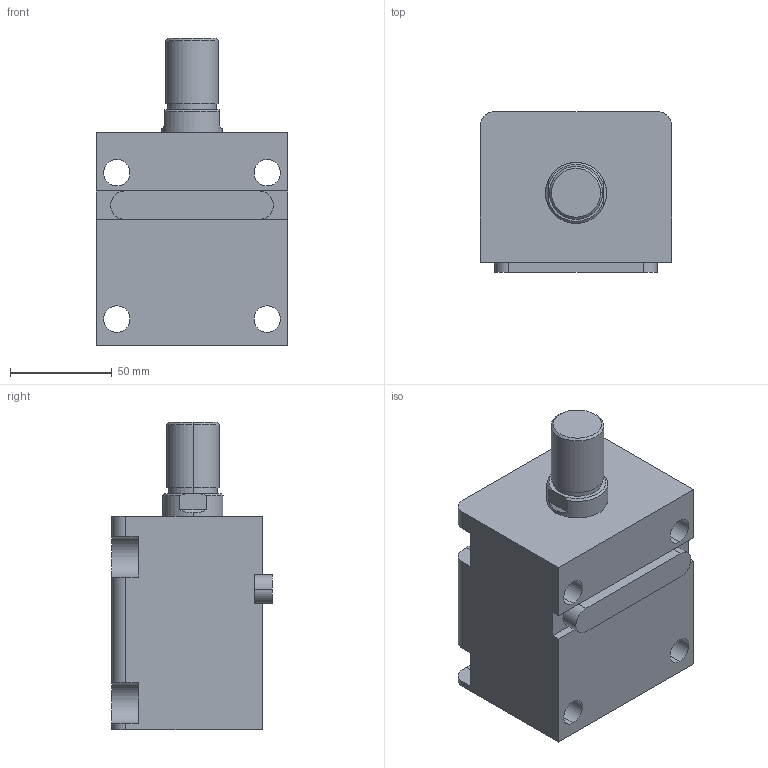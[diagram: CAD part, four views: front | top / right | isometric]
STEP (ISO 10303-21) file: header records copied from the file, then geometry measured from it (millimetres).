
FILE_DESCRIPTION (( 'STEP AP203' ), '1' );
FILE_NAME ('HTB-LA50-45W.STEP', '2019-10-09T07:09:43', ( '微软用户' ), ( '微软中国' ), 'SwSTEP 2.0', 'SolidWorks 2012', '' );
FILE_SCHEMA (( 'CONFIG_CONTROL_DESIGN' ));
Length unit declared in the file: millimetre
Products named in the file (4): HTB-LA50-瑩; HTB-LA50-45W; HTB-LA50-45掛极; HTB-LA50-45W活塞杆
Assembly tree (3 placements, depth 2):
  HTB-LA50-45W
    HTB-LA50-45掛极
    HTB-LA50-45W活塞杆
    HTB-LA50-瑩
Bounding box: 94 x 79 x 151 mm (x, y, z)
Volume: 649140.2 mm3; surface area: 97994.1 mm2
Topology: 3 solids, 3 shells, 90 faces, 219 edges, 144 vertices
Faces by surface type: plane 41, cylinder 37, cone 8, torus 4
Entity records: 3107 total; most frequent: DIRECTION 497, CARTESIAN_POINT 487, ORIENTED_EDGE 438, EDGE_CURVE 219, AXIS2_PLACEMENT_3D 190, VERTEX_POINT 144, LINE 117, VECTOR 117
